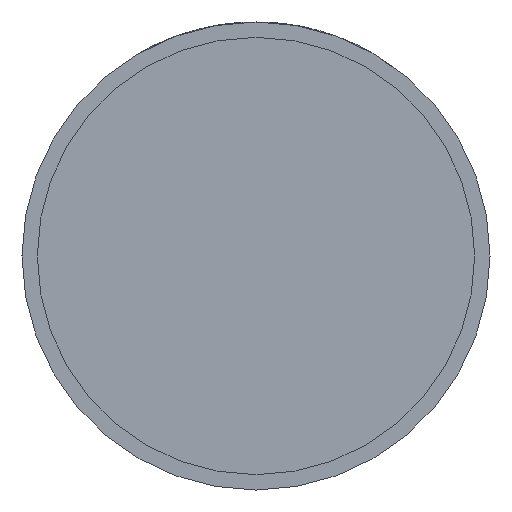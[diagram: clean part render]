
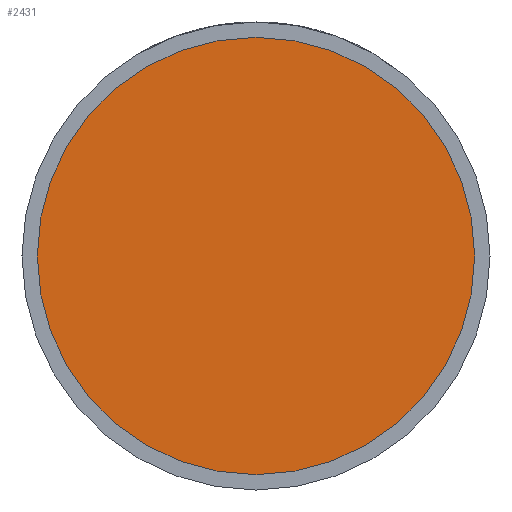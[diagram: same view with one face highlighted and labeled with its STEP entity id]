
A CAD part, front view. The second image highlights one B-rep face of the part: STEP entity #2431.
In plain terms, the highlighted planar face has unit normal (0, -1, 0).
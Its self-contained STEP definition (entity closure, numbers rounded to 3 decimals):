
#61 = DIRECTION ( 'NONE',  ( 1., 0., 0. ) ) ;
#357 = CARTESIAN_POINT ( 'NONE',  ( 28.5, -17.5, 0. ) ) ;
#644 = ORIENTED_EDGE ( 'NONE', *, *, #4037, .T. ) ;
#944 = EDGE_LOOP ( 'NONE', ( #1079, #644 ) ) ;
#1003 = AXIS2_PLACEMENT_3D ( 'NONE', #2734, #1088, #4045 ) ;
#1079 = ORIENTED_EDGE ( 'NONE', *, *, #4035, .T. ) ;
#1088 = DIRECTION ( 'NONE',  ( 0., -1., 0. ) ) ;
#1637 = VERTEX_POINT ( 'NONE', #3322 ) ;
#1690 = AXIS2_PLACEMENT_3D ( 'NONE', #1812, #2125, #3103 ) ;
#1812 = CARTESIAN_POINT ( 'NONE',  ( 0., -17.5, 0. ) ) ;
#2125 = DIRECTION ( 'NONE',  ( 0., -1., 0. ) ) ;
#2251 = CIRCLE ( 'NONE', #1003, 28.5 ) ;
#2324 = FACE_OUTER_BOUND ( 'NONE', #944, .T. ) ;
#2387 = CIRCLE ( 'NONE', #1690, 28.5 ) ;
#2431 = ADVANCED_FACE ( 'NONE', ( #2324 ), #3642, .T. ) ;
#2734 = CARTESIAN_POINT ( 'NONE',  ( 0., -17.5, 0. ) ) ;
#2993 = VERTEX_POINT ( 'NONE', #3500 ) ;
#3103 = DIRECTION ( 'NONE',  ( 1., 0., 0. ) ) ;
#3322 = CARTESIAN_POINT ( 'NONE',  ( -28.5, -17.5, 0. ) ) ;
#3500 = CARTESIAN_POINT ( 'NONE',  ( 28.5, -17.5, 0. ) ) ;
#3642 = PLANE ( 'NONE',  #3965 ) ;
#3682 = DIRECTION ( 'NONE',  ( 0., -1., 0. ) ) ;
#3965 = AXIS2_PLACEMENT_3D ( 'NONE', #357, #3682, #61 ) ;
#4035 = EDGE_CURVE ( 'NONE', #2993, #1637, #2387, .T. ) ;
#4037 = EDGE_CURVE ( 'NONE', #1637, #2993, #2251, .T. ) ;
#4045 = DIRECTION ( 'NONE',  ( 1., 0., 0. ) ) ;
